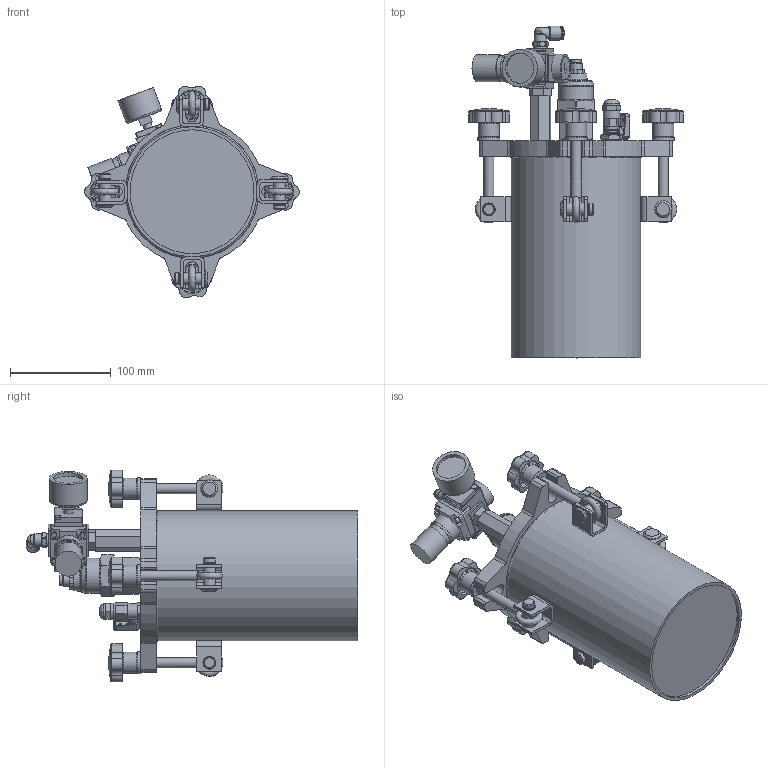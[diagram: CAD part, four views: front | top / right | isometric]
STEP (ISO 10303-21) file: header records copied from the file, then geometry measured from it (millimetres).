
FILE_DESCRIPTION (( 'STEP AP214' ), '1' );
FILE_NAME ('PT2LLS-CAP.STEP', '2024-10-11T14:33:45', ( '' ), ( '' ), 'SwSTEP 2.0', 'SolidWorks 2024', '' );
FILE_SCHEMA (( 'AUTOMOTIVE_DESIGN' ));
Length unit declared in the file: millimetre
Products named in the file (1): PT2LLS-CAP
Bounding box: 212.98 x 329.5 x 210.03 mm (x, y, z)
Volume: 980798.5 mm3; surface area: 388941 mm2
Topology: 43 solids, 54 shells, 1430 faces, 3572 edges, 2331 vertices
Faces by surface type: plane 706, cylinder 373, bspline 182, cone 110, torus 59
Full cylindrical faces by diameter (mm): 1.9 x1, 2 x1, 3 x1, 4.5 x1, 5 x4, 5.5 x1, 5.6 x4, 6 x7, 6.15 x1, 7 x1, 7.4 x1, 7.5 x1, 8 x3, 8.15 x1, 8.2 x1, 8.3 x1, 8.376 x4, 8.566 x2, 9 x4, 9.4 x1, 10 x7, 10.4 x4, 11 x6, 11.445 x2, 11.6 x1, 11.8 x2, 12 x10, 12.5 x1, 12.7 x8, 13 x4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
Entity records: 59681 total; most frequent: CARTESIAN_POINT 28147, ORIENTED_EDGE 6418, DIRECTION 5793, EDGE_CURVE 3209, VERTEX_POINT 2218, AXIS2_PLACEMENT_3D 2103, EDGE_LOOP 1825, LINE 1587
